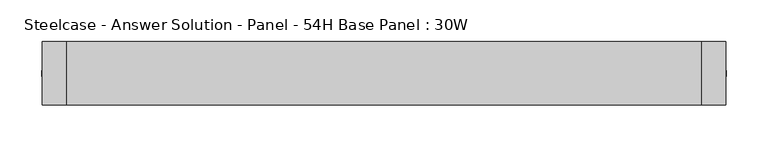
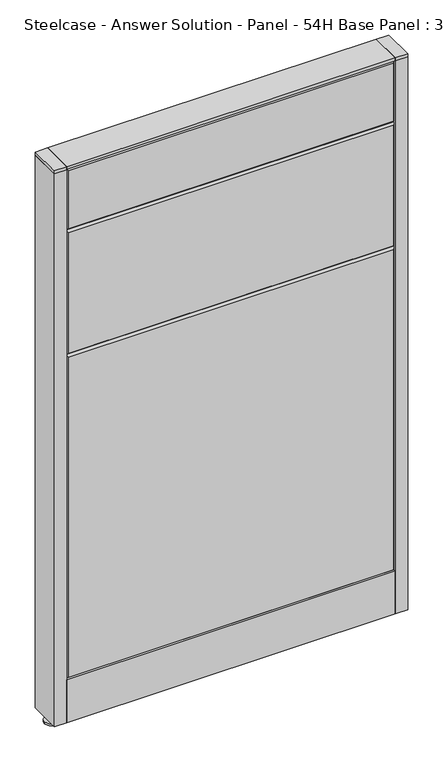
"""IFC4 building model written with IfcOpenShell, lengths in millimetres: furniture geometry, Steelcase - Answer Solution - Panel - 54H Base Panel : 30W."""

from ifc_helpers import new_model, si_unit, point, frame, frame_2d, origin, place, context, project, spatial, polyline, circle_curve, trimmed, segment, composite_curve, outline, extrude, faceted_brep, source, transform, mapped, element, save


def steelcase_answer_solution_panel_54h_base_panel_30w_d4708750(model_context):
    return source(origin(), model_context, "Body", "SolidModel", [
        extrude(outline(composite_curve([segment(trimmed(circle_curve(frame_2d((395.224, 0.0320214)), 5.08), [point((400.304, 0.0320214))], [point((390.144, 0.0320214))], False, "CARTESIAN"), True, "CONTINUOUS"), segment(trimmed(circle_curve(frame_2d((395.224, 0.0320214)), 5.08), [point((390.144, 0.0320214))], [point((400.304, 0.0320214))], False, "CARTESIAN"), True, "CONTINUOUS")], self_intersect=False)), frame((0.0, 0.0, 5.0799671), z_axis=(0.0, 0.0, 1.0), x_axis=(1.0, 0.0, 0.0)), (0.0, 0.0, 1.0), 10.414),
        extrude(outline(composite_curve([segment(trimmed(circle_curve(frame_2d((395.224, 0.0320214)), 15.24), [point((410.464, 0.0320214))], [point((379.984, 0.0320214))], False, "CARTESIAN"), True, "CONTINUOUS"), segment(trimmed(circle_curve(frame_2d((395.224, 0.0320214)), 15.24), [point((379.984, 0.0320214))], [point((410.464, 0.0320214))], False, "CARTESIAN"), True, "CONTINUOUS")], self_intersect=False)), frame((0.0, 0.0, -3.29e-05), z_axis=(0.0, 0.0, 1.0), x_axis=(1.0, 0.0, 0.0)), (0.0, 0.0, 1.0), 5.08),
        extrude(outline(polyline([(409.575, 38.1320408), (409.575, -38.0679592), (381.0, -38.0679592), (381.0, 38.1320408), (409.575, 38.1320408)])), frame((0.0, 0.0, 1370.6348), z_axis=(0.0, 0.0, 1.0), x_axis=(1.0, 0.0, 0.0)), (0.0, 0.0, 1.0), 7.3151671),
        extrude(outline(polyline([(409.575, 38.1320408), (409.575, -38.0679592), (381.0, -38.0679592), (381.0, 38.1320408), (409.575, 38.1320408)])), frame((0.0, 0.0, 15.4939671), z_axis=(0.0, 0.0, 1.0), x_axis=(1.0, 0.0, 0.0)), (0.0, 0.0, 1.0), 1355.1408329),
        extrude(outline(composite_curve([segment(trimmed(circle_curve(frame_2d((-395.224, 0.0320214)), 5.08), [point((-400.304, 0.0320214))], [point((-390.144, 0.0320214))], False, "CARTESIAN"), True, "CONTINUOUS"), segment(trimmed(circle_curve(frame_2d((-395.224, 0.0320214)), 5.08), [point((-390.144, 0.0320214))], [point((-400.304, 0.0320214))], False, "CARTESIAN"), True, "CONTINUOUS")], self_intersect=False)), frame((0.0, 0.0, 5.0799671), z_axis=(0.0, 0.0, 1.0), x_axis=(1.0, 0.0, 0.0)), (0.0, 0.0, 1.0), 10.414),
        extrude(outline(composite_curve([segment(trimmed(circle_curve(frame_2d((-395.224, 0.0320214)), 15.24), [point((-410.464, 0.0320214))], [point((-379.984, 0.0320214))], False, "CARTESIAN"), True, "CONTINUOUS"), segment(trimmed(circle_curve(frame_2d((-395.224, 0.0320214)), 15.24), [point((-379.984, 0.0320214))], [point((-410.464, 0.0320214))], False, "CARTESIAN"), True, "CONTINUOUS")], self_intersect=False)), frame((0.0, 0.0, -3.29e-05), z_axis=(0.0, 0.0, 1.0), x_axis=(1.0, 0.0, 0.0)), (0.0, 0.0, 1.0), 5.08),
        extrude(outline(polyline([(-409.575, 38.1320408), (-381.0, 38.1320408), (-381.0, -38.0679592), (-409.575, -38.0679592), (-409.575, 38.1320408)])), frame((0.0, 0.0, 1370.6348), z_axis=(0.0, 0.0, 1.0), x_axis=(1.0, 0.0, 0.0)), (0.0, 0.0, 1.0), 7.3151671),
        extrude(outline(polyline([(-409.575, 38.1320408), (-381.0, 38.1320408), (-381.0, -38.0679592), (-409.575, -38.0679592), (-409.575, 38.1320408)])), frame((0.0, 0.0, 15.4939671), z_axis=(0.0, 0.0, 1.0), x_axis=(1.0, 0.0, 0.0)), (0.0, 0.0, 1.0), 1355.1408329),
        faceted_brep([(-376.174, 38.1635011, 1366.774), (376.174, 38.1635011, 1366.774), (376.174, 38.1635011, 1224.026), (-376.174, 38.1635011, 1224.026), (-381.0, 33.3375011, 1371.6), (-381.0, 33.3375011, 1219.2), (381.0, 33.3375011, 1219.2), (381.0, 33.3375011, 1371.6)], [[[0, 1, 2, 3]], [[4, 5, 6, 7]], [[4, 7, 1, 0]], [[7, 6, 2, 1]], [[6, 5, 3, 2]], [[5, 4, 0, 3]]]),
        faceted_brep([(-376.174, 38.1635011, 1214.374), (376.174, 38.1635011, 1214.374), (376.174, 38.1635011, 919.226), (-376.174, 38.1635011, 919.226), (-381.0, 33.3375011, 1219.2), (-381.0, 33.3375011, 914.4), (381.0, 33.3375011, 914.4), (381.0, 33.3375011, 1219.2)], [[[0, 1, 2, 3]], [[4, 5, 6, 7]], [[4, 7, 1, 0]], [[7, 6, 2, 1]], [[6, 5, 3, 2]], [[5, 4, 0, 3]]]),
        faceted_brep([(-376.174, 38.1635011, 909.574), (376.174, 38.1635011, 909.574), (376.174, 38.1635011, 125.476), (-376.174, 38.1635011, 125.476), (-381.0, 33.3375011, 914.4), (-381.0, 33.3375011, 120.65), (381.0, 33.3375011, 120.65), (381.0, 33.3375011, 914.4)], [[[0, 1, 2, 3]], [[4, 5, 6, 7]], [[4, 7, 1, 0]], [[7, 6, 2, 1]], [[6, 5, 3, 2]], [[5, 4, 0, 3]]]),
        faceted_brep([(376.174, -38.1635011, 1366.774), (-376.174, -38.1635011, 1366.774), (-376.174, -38.1635011, 1224.026), (376.174, -38.1635011, 1224.026), (381.0, -33.3375011, 1371.6), (381.0, -33.3375011, 1219.2), (-381.0, -33.3375011, 1219.2), (-381.0, -33.3375011, 1371.6)], [[[0, 1, 2, 3]], [[4, 5, 6, 7]], [[4, 7, 1, 0]], [[7, 6, 2, 1]], [[6, 5, 3, 2]], [[5, 4, 0, 3]]]),
        faceted_brep([(376.174, -38.1635011, 1214.374), (-376.174, -38.1635011, 1214.374), (-376.174, -38.1635011, 919.226), (376.174, -38.1635011, 919.226), (381.0, -33.3375011, 1219.2), (381.0, -33.3375011, 914.4), (-381.0, -33.3375011, 914.4), (-381.0, -33.3375011, 1219.2)], [[[0, 1, 2, 3]], [[4, 5, 6, 7]], [[4, 7, 1, 0]], [[7, 6, 2, 1]], [[6, 5, 3, 2]], [[5, 4, 0, 3]]]),
        faceted_brep([(376.174, -38.1635011, 909.574), (-376.174, -38.1635011, 909.574), (-376.174, -38.1635011, 125.476), (376.174, -38.1635011, 125.476), (381.0, -33.3375011, 914.4), (381.0, -33.3375011, 120.65), (-381.0, -33.3375011, 120.65), (-381.0, -33.3375011, 914.4)], [[[0, 1, 2, 3]], [[4, 5, 6, 7]], [[4, 7, 1, 0]], [[7, 6, 2, 1]], [[6, 5, 3, 2]], [[5, 4, 0, 3]]]),
        extrude(outline(polyline([(381.0, 38.1000194), (381.0, -38.1000194), (-381.0, -38.1000194), (-381.0, 38.1000194), (381.0, 38.1000194)])), frame((0.0, 0.0, 1371.6), z_axis=(0.0, 0.0, 1.0), x_axis=(1.0, 0.0, 0.0)), (0.0, 0.0, 1.0), 6.35),
        extrude(outline(polyline([(25.4000011, 119.8575157), (25.4000011, 120.65), (38.1000194, 120.65), (38.1000194, 15.494), (37.3075215, 15.494), (37.3075215, 119.8575157), (25.4000011, 119.8575157)])), frame((-381.0, 0.0, 0.0), z_axis=(1.0, 0.0, 0.0), x_axis=(0.0, 1.0, 0.0)), (0.0, 0.0, 1.0), 762.0),
        extrude(outline(polyline([(-25.4000011, 119.8575157), (-37.3075215, 119.8575157), (-37.3075215, 15.494), (-38.1000194, 15.494), (-38.1000194, 120.65), (-25.4000011, 120.65), (-25.4000011, 119.8575157)])), frame((-381.0, 0.0, 0.0), z_axis=(1.0, 0.0, 0.0), x_axis=(0.0, 1.0, 0.0)), (0.0, 0.0, 1.0), 762.0),
    ])


if __name__ == "__main__":
    model = new_model("IFC4")
    model_context = context("Model", 3, world=origin())
    ifc_project = project(units=[si_unit("LENGTHUNIT", "METRE", prefix="MILLI")], contexts=[model_context])
    site = spatial("IfcSite", under=ifc_project)
    building = spatial("IfcBuilding", under=site)
    placement = place(None, origin())
    steelcase_answer_solution_panel_54h_base_panel_30w_shape = steelcase_answer_solution_panel_54h_base_panel_30w_d4708750(model_context)
    element("IfcFurniture", 1, ObjectType="Steelcase - Answer Solution - Panel - 54H Base Panel : 30W", at=placement, inside=building, context=model_context, shape_type="MappedRepresentation", body=[
        mapped(steelcase_answer_solution_panel_54h_base_panel_30w_shape, transform((0.0, 0.0, 0.0), x_axis=(1.0, 0.0, 0.0), y_axis=(0.0, 1.0, 0.0), z_axis=(0.0, 0.0, 1.0))),
    ])
    save(model, "model.ifc")
